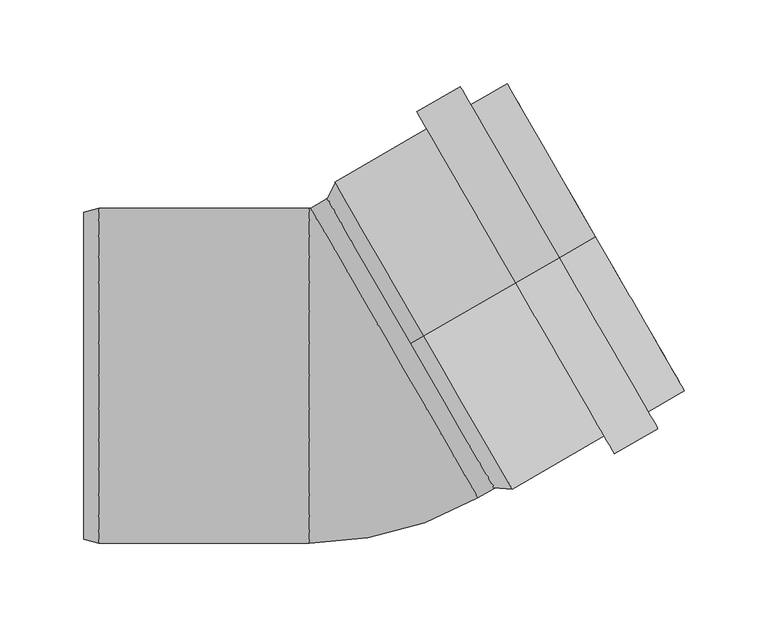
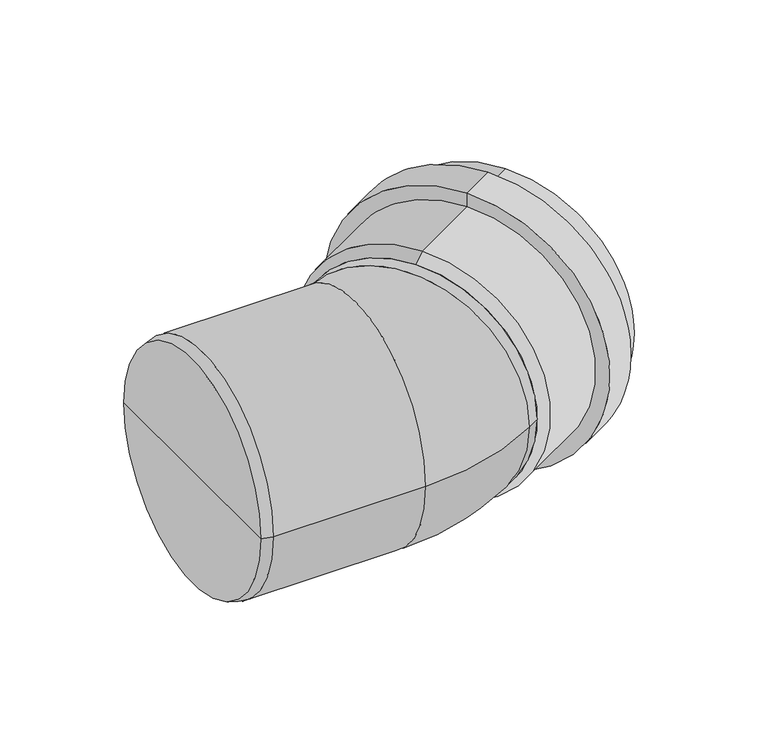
"""IFC4 building model written with IfcOpenShell, lengths in millimetres: pipe fitting geometry, OSMA_KG2000_PPKGB : Koleno 30°."""

from ifc_helpers import new_model, si_unit, point, frame, origin, place, context, project, spatial, polyline, circle_curve, ellipse_curve, trimmed, source, transform, mapped, element, save
from ifc_brep_helpers import plane_surface, cylinder_surface, revolved_surface, advanced_brep


def pipe_fitting_6151ea02(model_context):
    return source(origin(), model_context, "Body", "AdvancedBrep", [
        advanced_brep(
        [(41.1362067, 23.75, 100.0), (41.1362067, 23.75, -100.0), (143.760217, 83.0, -100.0), (143.760217, 83.0, 100.0), (96.1288198, 55.5, 106.2), (96.1288198, 55.5, -106.2), (41.1362067, 23.75, -106.2), (41.1362067, 23.75, 106.2), (96.1288198, 55.5, 118.0), (96.1288198, 55.5, -118.0), (122.1095819, 70.5, 118.0), (122.1095819, 70.5, -118.0), (122.1095819, 70.5, 106.2), (122.1095819, 70.5, -106.2), (143.760217, 83.0, 106.2), (143.760217, 83.0, -106.2), (33.341978, 19.25, 93.8), (33.341978, 19.25, -93.8), (33.341978, 19.25, 100.0), (33.341978, 19.25, -100.0)],
        [
            (0, 1, circle_curve(frame((41.1362067, 23.75, 0.0), z_axis=(-0.8660254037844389, -0.49999999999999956, 0.0), x_axis=(0.0, 0.0, -1.0)), 100.0)),
            (1, 2),
            (2, 3, circle_curve(frame((143.760217, 83.0, 0.0), z_axis=(0.8660254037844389, 0.49999999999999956, 0.0), x_axis=(0.0, 0.0, -1.0)), 100.0)),
            (3, 0),
            (1, 0, circle_curve(frame((41.1362067, 23.75, 0.0), z_axis=(-0.8660254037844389, -0.49999999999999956, 0.0), x_axis=(0.0, 0.0, -1.0)), 100.0)),
            (3, 2, circle_curve(frame((143.760217, 83.0, 0.0), z_axis=(0.8660254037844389, 0.49999999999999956, 0.0), x_axis=(0.0, 0.0, -1.0)), 100.0)),
            (4, 5, circle_curve(frame((96.1288198, 55.5, 0.0), z_axis=(-0.8660254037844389, -0.49999999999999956, 0.0), x_axis=(0.0, 0.0, -1.0)), 106.2)),
            (5, 6),
            (6, 7, circle_curve(frame((41.1362067, 23.75, 0.0), z_axis=(0.8660254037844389, 0.49999999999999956, 0.0), x_axis=(0.0, 0.0, -1.0)), 106.2)),
            (7, 4),
            (5, 4, circle_curve(frame((96.1288198, 55.5, 0.0), z_axis=(-0.8660254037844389, -0.49999999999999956, 0.0), x_axis=(0.0, 0.0, -1.0)), 106.2)),
            (7, 6, circle_curve(frame((41.1362067, 23.75, 0.0), z_axis=(0.8660254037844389, 0.49999999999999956, 0.0), x_axis=(0.0, 0.0, -1.0)), 106.2)),
            (8, 9, circle_curve(frame((96.1288198, 55.5, 0.0), z_axis=(-0.8660254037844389, -0.49999999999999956, 0.0), x_axis=(0.0, 0.0, -1.0)), 118.0)),
            (9, 5),
            (4, 8),
            (9, 8, circle_curve(frame((96.1288198, 55.5, 0.0), z_axis=(-0.8660254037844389, -0.49999999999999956, 0.0), x_axis=(0.0, 0.0, -1.0)), 118.0)),
            (10, 11, circle_curve(frame((122.1095819, 70.5, 0.0), z_axis=(-0.8660254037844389, -0.49999999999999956, 0.0), x_axis=(0.0, 0.0, -1.0)), 118.0)),
            (11, 9),
            (8, 10),
            (11, 10, circle_curve(frame((122.1095819, 70.5, 0.0), z_axis=(-0.8660254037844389, -0.49999999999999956, 0.0), x_axis=(0.0, 0.0, -1.0)), 118.0)),
            (12, 13, circle_curve(frame((122.1095819, 70.5, 0.0), z_axis=(-0.8660254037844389, -0.49999999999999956, 0.0), x_axis=(0.0, 0.0, -1.0)), 106.2)),
            (13, 11),
            (10, 12),
            (13, 12, circle_curve(frame((122.1095819, 70.5, 0.0), z_axis=(-0.8660254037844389, -0.49999999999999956, 0.0), x_axis=(0.0, 0.0, -1.0)), 106.2)),
            (14, 15, circle_curve(frame((143.760217, 83.0, 0.0), z_axis=(-0.8660254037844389, -0.49999999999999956, 0.0), x_axis=(0.0, 0.0, -1.0)), 106.2)),
            (15, 13),
            (12, 14),
            (15, 14, circle_curve(frame((143.760217, 83.0, 0.0), z_axis=(-0.8660254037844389, -0.49999999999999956, 0.0), x_axis=(0.0, 0.0, -1.0)), 106.2)),
            (2, 15),
            (14, 3),
            (16, 17, circle_curve(frame((33.341978, 19.25, 0.0), z_axis=(-0.8660254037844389, -0.49999999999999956, 0.0), x_axis=(0.0, 0.0, -1.0)), 93.8)),
            (17, 1),
            (0, 16),
            (17, 16, circle_curve(frame((33.341978, 19.25, 0.0), z_axis=(-0.8660254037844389, -0.49999999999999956, 0.0), x_axis=(0.0, 0.0, -1.0)), 93.8)),
            (18, 19, circle_curve(frame((33.341978, 19.25, 0.0), z_axis=(-0.8660254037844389, -0.49999999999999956, 0.0), x_axis=(0.0, 0.0, -1.0)), 100.0)),
            (19, 17),
            (16, 18),
            (19, 18, circle_curve(frame((33.341978, 19.25, 0.0), z_axis=(-0.8660254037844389, -0.49999999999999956, 0.0), x_axis=(0.0, 0.0, -1.0)), 100.0)),
            (6, 19),
            (18, 7),
        ],
        [
            revolved_surface(polyline([(143.76021700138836, 82.9999999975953, -100.0), (41.13620668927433, 23.75000001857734, -100.0)]), (2455.5927061, 1417.7371099, 0.0), (0.8660254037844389, 0.49999999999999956, 0.0)),
            cylinder_surface(frame((2455.5927061, 1417.7371099, 0.0), z_axis=(0.8660254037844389, 0.49999999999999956, 0.0), x_axis=(0.0, 0.0, -1.0)), 106.2),
            plane_surface(frame((96.1288198, 55.5, 0.0), z_axis=(-0.8660254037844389, -0.49999999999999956, 0.0), x_axis=(0.0, 0.0, -1.0))),
            cylinder_surface(frame((2455.5927061, 1417.7371099, 0.0), z_axis=(0.8660254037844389, 0.49999999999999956, 0.0), x_axis=(0.0, 0.0, -1.0)), 118.0),
            plane_surface(frame((122.1095819, 70.5, 0.0), z_axis=(0.8660254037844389, 0.49999999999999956, 0.0), x_axis=(0.0, 0.0, -1.0))),
            plane_surface(frame((143.760217, 83.0, 0.0), z_axis=(0.8660254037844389, 0.49999999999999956, 0.0), x_axis=(0.0, 0.0, -1.0))),
            revolved_surface(polyline([(41.1362067, 23.75, -100.0), (33.341978, 19.25, -93.8)]), (2455.5927061, 1417.7371099, 0.0), (0.8660254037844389, 0.49999999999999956, 0.0)),
            plane_surface(frame((33.341978, 19.25, 0.0), z_axis=(-0.8660254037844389, -0.49999999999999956, 0.0), x_axis=(0.0, 0.0, -1.0))),
            revolved_surface(polyline([(33.341978, 19.25, -100.0), (41.1362067, 23.75, -106.2)]), (2455.5927061, 1417.7371099, 0.0), (0.8660254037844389, 0.49999999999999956, 0.0)),
        ],
        [
            (0, [[1, 2, 3, 4]]),
            (0, [[5, -4, 6, -2]]),
            (1, [[7, 8, 9, 10]]),
            (1, [[11, -10, 12, -8]]),
            (2, [[13, 14, -7, 15]]),
            (2, [[16, -15, -11, -14]]),
            (3, [[17, 18, -13, 19]]),
            (3, [[20, -19, -16, -18]]),
            (4, [[21, 22, -17, 23]]),
            (4, [[24, -23, -20, -22]]),
            (1, [[25, 26, -21, 27]]),
            (1, [[28, -27, -24, -26]]),
            (5, [[-3, 29, -25, 30]]),
            (5, [[-6, -30, -28, -29]]),
            (6, [[31, 32, -1, 33]]),
            (6, [[34, -33, -5, -32]]),
            (7, [[35, 36, -31, 37]]),
            (7, [[38, -37, -34, -36]]),
            (8, [[-9, 39, -35, 40]]),
            (8, [[-12, -40, -38, -39]]),
        ],
    ),
        advanced_brep(
        [(-26.446843, 100.2009619, 0.0), (-27.196843, 100.0, 0.0), (-27.196843, -100.0, 0.0), (73.553157, -73.0041189, 0.0), (23.553157, 13.5984215, 100.0), (23.553157, 13.5984215, -100.0), (-162.0, 0.0, 0.0), (-162.0, 97.5884572, 0.0), (-162.0, -97.5884572, 0.0), (-153.0, 100.0, 0.0), (-153.0, -100.0, 0.0), (89.8371686, -63.6025404, 0.0), (-10.1628314, 109.6025404, 0.0)],
        [
            (0, 1, circle_curve(frame((-27.196843, 101.5, 0.0), z_axis=(0.0, 0.0, -1.0), x_axis=(0.0, -1.0, 0.0)), 1.5)),
            (1, 2, circle_curve(frame((-27.196843, 0.0, 0.0), z_axis=(1.0, 0.0, 0.0), x_axis=(0.0, 1.0, 0.0)), 100.0)),
            (2, 3, circle_curve(frame((-27.196843, 101.5, 0.0), z_axis=(0.0, 0.0, 1.0), x_axis=(0.0, -1.0, 0.0)), 201.5)),
            (3, 4, circle_curve(frame((23.553157, 13.5984215, 0.0), z_axis=(-0.8660254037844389, -0.4999999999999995, 0.0), x_axis=(-0.4999999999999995, 0.8660254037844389, 0.0)), 100.0)),
            (4, 0, circle_curve(frame((23.553157, 13.5984215, 0.0), z_axis=(-0.8660254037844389, -0.4999999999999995, 0.0), x_axis=(-0.4999999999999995, 0.8660254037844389, 0.0)), 100.0)),
            (0, 5, circle_curve(frame((23.553157, 13.5984215, 0.0), z_axis=(-0.8660254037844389, -0.4999999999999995, 0.0), x_axis=(-0.4999999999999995, 0.8660254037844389, 0.0)), 100.0)),
            (5, 3, circle_curve(frame((23.553157, 13.5984215, 0.0), z_axis=(-0.8660254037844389, -0.4999999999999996, 0.0), x_axis=(-0.4999999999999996, 0.8660254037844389, 0.0)), 100.0)),
            (2, 1, circle_curve(frame((-27.196843, 0.0, 0.0), z_axis=(1.0, 0.0, 0.0), x_axis=(0.0, 1.0, 0.0)), 100.0)),
            (6, 7),
            (7, 8, circle_curve(frame((-162.0, 0.0, 0.0), z_axis=(-1.0, 0.0, 0.0), x_axis=(0.0, 1.0, 0.0)), 97.5884572)),
            (8, 6),
            (8, 7, circle_curve(frame((-162.0, 0.0, 0.0), z_axis=(-1.0, 0.0, 0.0), x_axis=(0.0, 1.0, 0.0)), 97.5884572)),
            (7, 9),
            (9, 10, circle_curve(frame((-153.0, 0.0, 0.0), z_axis=(-1.0, 0.0, 0.0), x_axis=(0.0, 1.0, 0.0)), 100.0)),
            (10, 8),
            (10, 9, circle_curve(frame((-153.0, 0.0, 0.0), z_axis=(-1.0, 0.0, 0.0), x_axis=(0.0, 1.0, 0.0)), 100.0)),
            (9, 1),
            (2, 10),
            (11, 12, circle_curve(frame((39.8371686, 23.0, 0.0), z_axis=(0.866025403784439, 0.4999999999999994, 0.0), x_axis=(-0.4999999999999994, 0.866025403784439, 0.0)), 100.0)),
            (12, 11, circle_curve(frame((39.8371686, 23.0, 0.0), z_axis=(0.866025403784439, 0.4999999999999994, 0.0), x_axis=(-0.4999999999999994, 0.866025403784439, 0.0)), 100.0)),
            (12, 0),
            (3, 11),
        ],
        [
            revolved_surface(trimmed(ellipse_curve(frame((-27.196843, 0.0, 0.0), z_axis=(-1.0, 0.0, 0.0), x_axis=(0.0, 1.0, 0.0)), 100.0, 100.0), [point((-27.196843, -100.0, 0.0))], [point((-27.196843, 100.0, 0.0))], True, "CARTESIAN"), (-27.196843, 101.5, 0.0), (0.0, 0.0, 1.0)),
            revolved_surface(trimmed(ellipse_curve(frame((-27.196843, 0.0, 0.0), z_axis=(-1.0, 0.0, 0.0), x_axis=(0.0, 1.0, 0.0)), 100.0, 100.0), [point((-27.196843, 100.0, 0.0))], [point((-27.196843, -100.0, 0.0))], True, "CARTESIAN"), (-27.196843, 101.5, 0.0), (0.0, 0.0, 1.0)),
            plane_surface(frame((-162.0, 0.0, 0.0), z_axis=(-1.0, 0.0, 0.0), x_axis=(0.0, 1.0, 0.0))),
            revolved_surface(polyline([(-153.0, 100.0, 0.0), (-162.0, 97.5884572, 0.0)]), (331.0587718, 0.0, 0.0), (-1.0, 0.0, 0.0)),
            cylinder_surface(frame((331.0587718, 0.0, 0.0), z_axis=(-1.0, 0.0, 0.0), x_axis=(0.0, 1.0, 0.0)), 100.0),
            plane_surface(frame((39.8371686, 23.0, 0.0), z_axis=(0.866025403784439, 0.4999999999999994, 0.0), x_axis=(0.0, 0.0, 1.0))),
            cylinder_surface(frame((23.553157, 13.5984215, 0.0), z_axis=(-0.866025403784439, -0.4999999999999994, 0.0), x_axis=(-0.4999999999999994, 0.866025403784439, 0.0)), 100.0),
        ],
        [
            (0, [[1, 2, 3, 4, 5]]),
            (1, [[-1, 6, 7, -3, 8]]),
            (2, [[9, 10, 11]]),
            (2, [[-9, -11, 12]]),
            (3, [[-10, 13, 14, 15]]),
            (3, [[-12, -15, 16, -13]]),
            (4, [[-14, 17, -8, 18]]),
            (4, [[-16, -18, -2, -17]]),
            (5, [[19, 20]]),
            (6, [[-20, 21, -5, -4, 22]]),
            (6, [[-19, -22, -7, -6, -21]]),
        ],
    ),
    ])


if __name__ == "__main__":
    model = new_model("IFC4")
    model_context = context("Model", 3, world=origin())
    ifc_project = project(units=[si_unit("LENGTHUNIT", "METRE", prefix="MILLI")], contexts=[model_context])
    site = spatial("IfcSite", under=ifc_project)
    building = spatial("IfcBuilding", under=site)
    placement = place(None, origin())
    pipe_fitting_shape = pipe_fitting_6151ea02(model_context)
    element("IfcPipeFitting", 1, ObjectType="OSMA_KG2000_PPKGB : Koleno 30°", at=placement, inside=building, context=model_context, shape_type="MappedRepresentation", body=[
        mapped(pipe_fitting_shape, transform((0.0, 0.0, 0.0), x_axis=(1.0, 0.0, 0.0), y_axis=(0.0, 1.0, 0.0), z_axis=(0.0, 0.0, 1.0))),
    ])
    save(model, "model.ifc")
